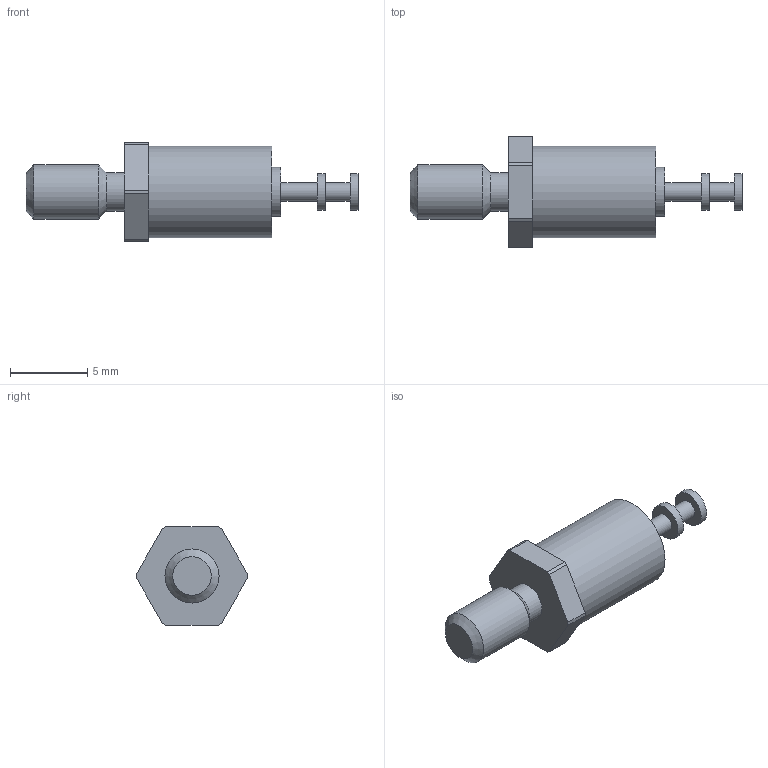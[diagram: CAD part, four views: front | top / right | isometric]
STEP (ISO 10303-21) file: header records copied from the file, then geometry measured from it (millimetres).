
FILE_DESCRIPTION(/* description */ (''),/* implementation_level */ '2;1');
FILE_NAME(/* name */ '\\Snap1\dwgs\Customer 3D Models\572\572-4823-02 Customer model.stp',/* time_stamp */ '2017-01-10T14:50:58+00:00',/* author */ ('paulk'),/* organization */ (''),/* preprocessor_version */ 'ST-DEVELOPER v15.2',/* originating_system */ 'Autodesk Inventor 2014',/* authorisation */ '');
FILE_SCHEMA (('CONFIG_CONTROL_DESIGN'));
Length unit declared in the file: millimetre
Products named in the file (1): 572-4823-02 Customer model
Bounding box: 21.44 x 7.2 x 6.35 mm (x, y, z)
Volume: 338.2 mm3; surface area: 361 mm2
Topology: 1 solids, 1 shells, 31 faces, 63 edges, 41 vertices
Faces by surface type: plane 15, cylinder 14, cone 2
Full cylindrical faces by diameter (mm): 1.194 x2, 2.362 x2, 2.464 x1, 3.175 x1, 3.5 x1, 5.893 x1
Entity records: 845 total; most frequent: DIRECTION 146, CARTESIAN_POINT 126, ORIENTED_EDGE 106, AXIS2_PLACEMENT_3D 61, EDGE_CURVE 53, EDGE_LOOP 48, VERTEX_POINT 41, STYLED_ITEM 32
